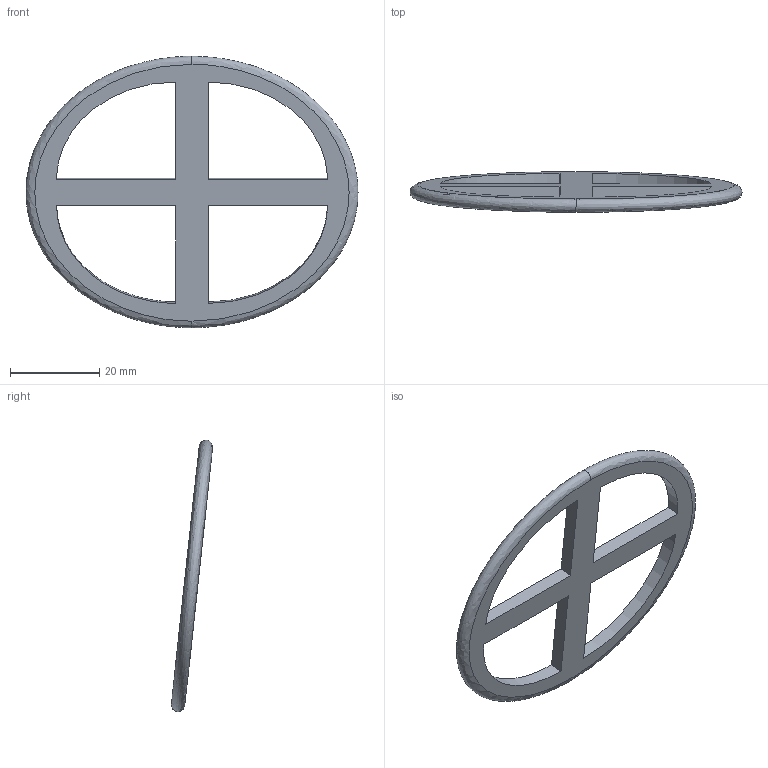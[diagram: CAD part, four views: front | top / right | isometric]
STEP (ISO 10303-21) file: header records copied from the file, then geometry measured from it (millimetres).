
FILE_DESCRIPTION(/* description */ (''),/* implementation_level */ '2;1');
FILE_NAME(/* name */ 'L-WIDE~3',/* time_stamp */ '2020-04-10T21:46:12+03:00',/* author */ (''),/* organization */ (''),/* preprocessor_version */ 'ST-DEVELOPER v16.5',/* originating_system */ '',/* authorisation */ '');
FILE_SCHEMA (('AUTOMOTIVE_DESIGN'));
Length unit declared in the file: millimetre
Products named in the file (1): Document
Bounding box: 74.31 x 9.2 x 60.75 mm (x, y, z)
Volume: 4920.3 mm3; surface area: 4824.9 mm2
Topology: 1 solids, 1 shells, 18 faces, 46 edges, 30 vertices
Faces by surface type: plane 10, bspline 8
Entity records: 1332 total; most frequent: CARTESIAN_POINT 1006, ORIENTED_EDGE 92, EDGE_CURVE 46, VERTEX_POINT 30, EDGE_LOOP 26, B_SPLINE_CURVE_WITH_KNOTS 24, ADVANCED_FACE 18, FACE_OUTER_BOUND 18
